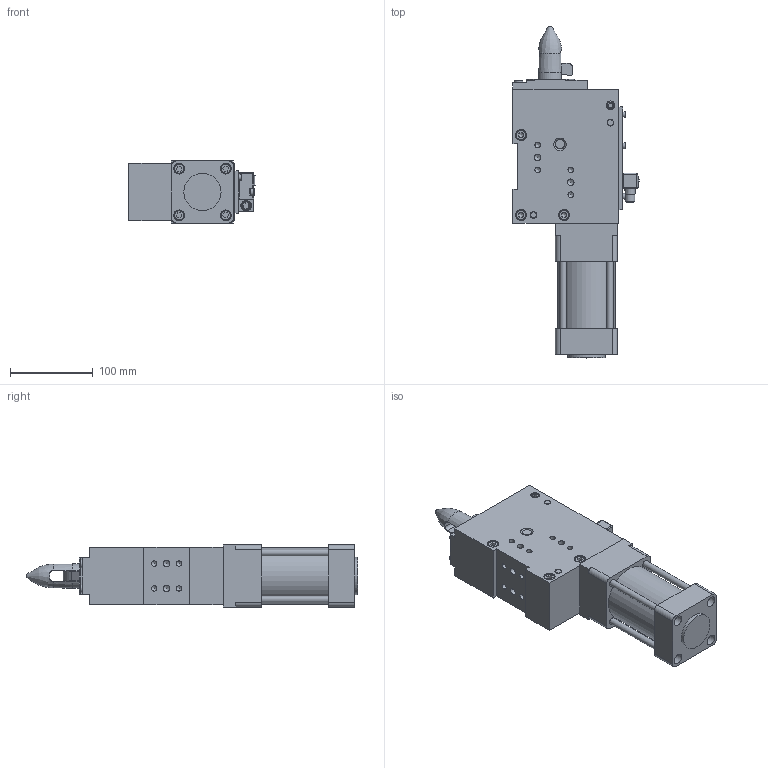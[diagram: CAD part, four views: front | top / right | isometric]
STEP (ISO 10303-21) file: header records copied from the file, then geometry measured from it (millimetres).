
FILE_DESCRIPTION(/* description */ (''),/* implementation_level */ '2;1');
FILE_NAME(/* name */ 'S:\Tom\INVENTOR FILES\INVENTOR WORKSPACE\AUTOMOTIVE\UNDERBODY CLAMPS\XLPV16\ANDY\SIMPLIFIED\2mm panel\STEP\renamed\XPCR63-ES1-30-500-X01.stp',/* time_stamp */ '2018-06-29T11:19:14+01:00',/* author */ ('carl'),/* organization */ (''),/* preprocessor_version */ 'ST-DEVELOPER v16.13',/* originating_system */ 'Autodesk Inventor 2018',/* authorisation */ '');
FILE_SCHEMA (('AUTOMOTIVE_DESIGN { 1 0 10303 214 3 1 1 }'));
Length unit declared in the file: millimetre
Products named in the file (1): XPCR63-ES1-30-500-X01
Bounding box: 152.72 x 401.24 x 75 mm (x, y, z)
Volume: 2263629.4 mm3; surface area: 189184.5 mm2
Topology: 1 solids, 1 shells, 827 faces, 2187 edges, 1423 vertices
Faces by surface type: plane 474, cylinder 232, cone 75, torus 30, sphere 9, bspline 7
Full cylindrical faces by diameter (mm): 0.7 x4, 2 x1, 2.5 x1, 3 x2, 3.18 x2, 3.2 x2, 5.5 x4, 6 x14, 6.3 x4, 6.647 x12, 7 x5, 8 x14, 8.4 x4, 8.5 x9, 9.5 x1, 9.8 x2, 10 x5, 10.5 x1, 11 x4, 11.7 x1, 12 x4, 12.75 x4, 13 x11, 13.5 x3, 14.95 x2, 45 x1, 69 x1
Entity records: 29064 total; most frequent: CARTESIAN_POINT 9924, DIRECTION 3920, ORIENTED_EDGE 3780, EDGE_CURVE 1890, AXIS2_PLACEMENT_3D 1449, VERTEX_POINT 1332, EDGE_LOOP 1150, LINE 1022
